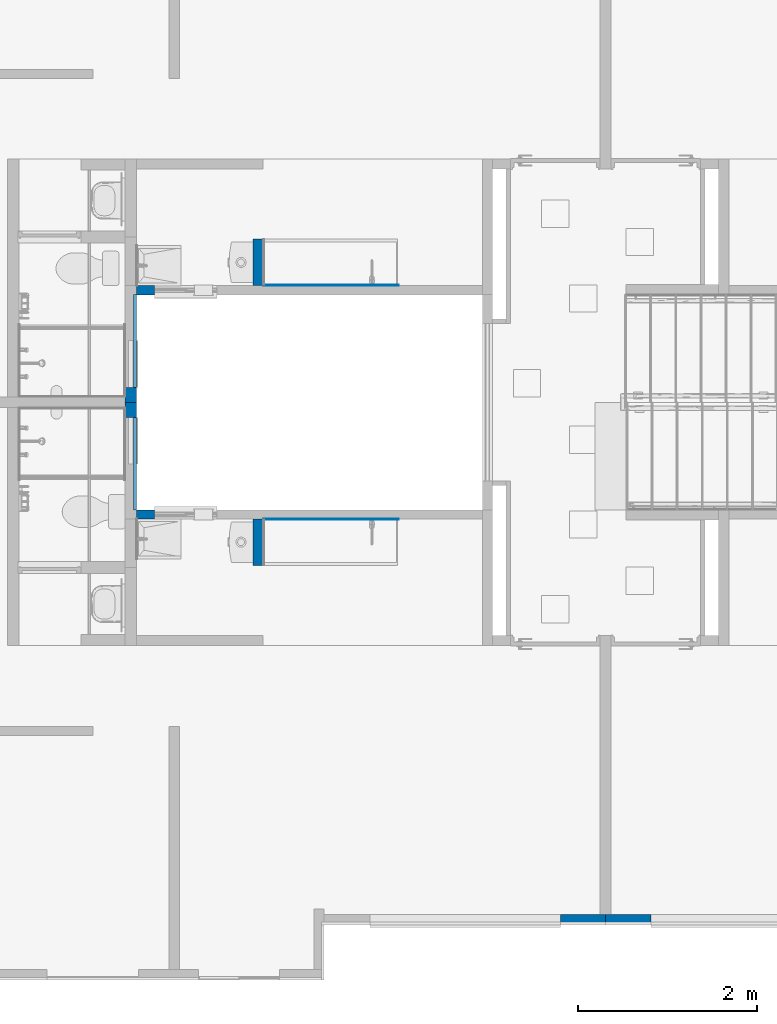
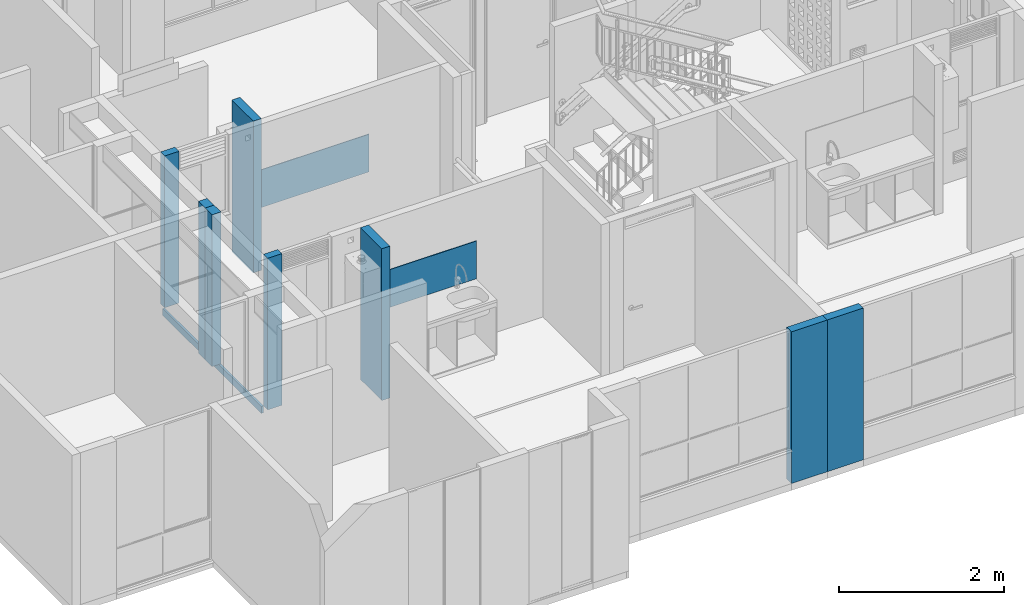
# One storey, part 8 of 48: 12 walls, 2 openings.
"""IFC4 building model written with IfcOpenShell, lengths in metres."""

from ifc_helpers import new_model, entity, si_unit, converted_unit, derived_unit, direction, frame, origin, place, context, subcontext, project, spatial, indexed_curve, outline, extrude, material, constituent, constituent_set, type_object, element, save


model = new_model("IFC4")

# Units and contexts
model_context = context("Model", 3, precision=1e-05, world=origin(), true_north=direction((6.123031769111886e-17, 1.0)))
body_context = subcontext(model_context, "Body", "Model", "MODEL_VIEW")
ifc_project = project(units=[si_unit("LENGTHUNIT", "METRE"), si_unit("AREAUNIT", "SQUARE_METRE"), si_unit("VOLUMEUNIT", "CUBIC_METRE"), converted_unit("PLANEANGLEUNIT", "DEGREE", entity("IfcRatioMeasure", 0.017453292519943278), si_unit("PLANEANGLEUNIT", "RADIAN"), dimensions=[0, 0, 0, 0, 0, 0, 0]), si_unit("MASSUNIT", "GRAM", prefix="KILO"), derived_unit("MASSDENSITYUNIT", [(si_unit("MASSUNIT", "GRAM", prefix="KILO"), 1), (si_unit("LENGTHUNIT", "METRE"), -3)]), derived_unit("IONCONCENTRATIONUNIT", [(si_unit("MASSUNIT", "GRAM", prefix="KILO"), 1), (si_unit("LENGTHUNIT", "METRE"), -3)]), derived_unit("MOMENTOFINERTIAUNIT", [(si_unit("LENGTHUNIT", "METRE"), 4)]), si_unit("TIMEUNIT", "SECOND"), si_unit("FREQUENCYUNIT", "HERTZ"), si_unit("THERMODYNAMICTEMPERATUREUNIT", "DEGREE_CELSIUS"), derived_unit("THERMALTRANSMITTANCEUNIT", [(si_unit("MASSUNIT", "GRAM", prefix="KILO"), 1), (si_unit("THERMODYNAMICTEMPERATUREUNIT", "KELVIN"), -1), (si_unit("TIMEUNIT", "SECOND"), -3)]), derived_unit("THERMALCONDUCTANCEUNIT", [(si_unit("MASSUNIT", "GRAM", prefix="KILO"), 1), (si_unit("THERMODYNAMICTEMPERATUREUNIT", "KELVIN"), -1), (si_unit("TIMEUNIT", "SECOND"), -3), (si_unit("LENGTHUNIT", "METRE"), 1)]), derived_unit("VOLUMETRICFLOWRATEUNIT", [(si_unit("LENGTHUNIT", "METRE"), 3), (si_unit("TIMEUNIT", "SECOND"), -1)]), derived_unit("MASSFLOWRATEUNIT", [(si_unit("MASSUNIT", "GRAM", prefix="KILO"), 1), (si_unit("TIMEUNIT", "SECOND"), -1)]), derived_unit("ROTATIONALFREQUENCYUNIT", [(si_unit("TIMEUNIT", "SECOND"), -1)]), si_unit("ELECTRICCURRENTUNIT", "AMPERE"), si_unit("ELECTRICVOLTAGEUNIT", "VOLT"), si_unit("POWERUNIT", "WATT"), si_unit("FORCEUNIT", "NEWTON", prefix="KILO"), si_unit("ILLUMINANCEUNIT", "LUX"), si_unit("LUMINOUSFLUXUNIT", "LUMEN"), si_unit("LUMINOUSINTENSITYUNIT", "CANDELA"), derived_unit("USERDEFINED", [(si_unit("MASSUNIT", "GRAM", prefix="KILO"), -1), (si_unit("LENGTHUNIT", "METRE"), -2), (si_unit("TIMEUNIT", "SECOND"), 3), (si_unit("LUMINOUSFLUXUNIT", "LUMEN"), 1)]), derived_unit("USERDEFINED", [(si_unit("MASSUNIT", "GRAM", prefix="KILO"), 1), (si_unit("TIMEUNIT", "SECOND"), -3), (si_unit("LENGTHUNIT", "METRE"), 3), (si_unit("ELECTRICCURRENTUNIT", "AMPERE"), -2)]), derived_unit("SOUNDPOWERUNIT", [(si_unit("MASSUNIT", "GRAM", prefix="KILO"), 1), (si_unit("TIMEUNIT", "SECOND"), -3), (si_unit("LENGTHUNIT", "METRE"), 2)]), derived_unit("SOUNDPRESSUREUNIT", [(si_unit("MASSUNIT", "GRAM", prefix="KILO"), 1), (si_unit("LENGTHUNIT", "METRE"), -1), (si_unit("TIMEUNIT", "SECOND"), -2)]), derived_unit("LINEARVELOCITYUNIT", [(si_unit("LENGTHUNIT", "METRE"), 1), (si_unit("TIMEUNIT", "SECOND"), -1)]), si_unit("PRESSUREUNIT", "PASCAL"), derived_unit("USERDEFINED", [(si_unit("MASSUNIT", "GRAM", prefix="KILO"), 1), (si_unit("LENGTHUNIT", "METRE"), -2), (si_unit("TIMEUNIT", "SECOND"), -2)]), derived_unit("LINEARFORCEUNIT", [(si_unit("MASSUNIT", "GRAM", prefix="KILO"), 1), (si_unit("TIMEUNIT", "SECOND"), -2)]), derived_unit("PLANARFORCEUNIT", [(si_unit("MASSUNIT", "GRAM", prefix="KILO"), 1), (si_unit("LENGTHUNIT", "METRE"), -1), (si_unit("TIMEUNIT", "SECOND"), -2)]), derived_unit("SPECIFICHEATCAPACITYUNIT", [(si_unit("THERMODYNAMICTEMPERATUREUNIT", "KELVIN"), -1), (si_unit("LENGTHUNIT", "METRE"), 2), (si_unit("TIMEUNIT", "SECOND"), -2)]), derived_unit("HEATINGVALUEUNIT", [(si_unit("LENGTHUNIT", "METRE"), 2), (si_unit("TIMEUNIT", "SECOND"), -2)]), derived_unit("VAPORPERMEABILITYUNIT", [(si_unit("LENGTHUNIT", "METRE"), -1), (si_unit("TIMEUNIT", "SECOND"), 1)]), derived_unit("DYNAMICVISCOSITYUNIT", [(si_unit("MASSUNIT", "GRAM", prefix="KILO"), 1), (si_unit("TIMEUNIT", "SECOND"), -1), (si_unit("LENGTHUNIT", "METRE"), -1)]), derived_unit("THERMALEXPANSIONCOEFFICIENTUNIT", [(si_unit("THERMODYNAMICTEMPERATUREUNIT", "KELVIN"), -1)]), derived_unit("MODULUSOFELASTICITYUNIT", [(si_unit("MASSUNIT", "GRAM", prefix="KILO"), 1), (si_unit("LENGTHUNIT", "METRE"), -1), (si_unit("TIMEUNIT", "SECOND"), -2)]), derived_unit("ISOTHERMALMOISTURECAPACITYUNIT", [(si_unit("LENGTHUNIT", "METRE"), 3), (si_unit("MASSUNIT", "GRAM", prefix="KILO"), -1)]), derived_unit("MOISTUREDIFFUSIVITYUNIT", [(si_unit("TIMEUNIT", "SECOND"), -1), (si_unit("LENGTHUNIT", "METRE"), 2)])], contexts=[model_context])

# Site, building, storey
site_placement = place(None, origin())
site = spatial("IfcSite", under=ifc_project, at=site_placement, Name="Default", CompositionType="ELEMENT")
building_placement = place(site_placement, origin())
building = spatial("IfcBuilding", under=site, at=building_placement, CompositionType="ELEMENT")
storey_placement = place(building_placement, frame((0.0, 0.0, 4.700000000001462)))
storey = spatial("IfcBuildingStorey", under=building, at=storey_placement, Name="Nivel 3", CompositionType="ELEMENT", Elevation=4.700000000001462)

# Walls
ifc_material_1 = material(Name="LADRILLO CLARO", Category="Materials")
wall_type_1 = type_object("IfcWallType", Name="Basic Wall:B2010 - 0.115m - ME mampostería no estructural - Ladrillo", PredefinedType="STANDARD")
wall_1_placement = place(storey_placement, frame((8.817499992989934, -12.197500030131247, 0.0)))
element("IfcWall", 1, at=wall_1_placement, inside=storey, type_object=wall_type_1, material=ifc_material_1, Name="Basic Wall:B2010 - 0.115m - ME mampostería no estructural - Ladrillo", ObjectType="Basic Wall:B2010 - 0.115m - ME mampostería no estructural - Ladrillo", PredefinedType="NOTDEFINED", context=body_context, shape_type="SweptSolid", body=[
    extrude(outline(indexed_curve([(0.5050000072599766, 0.05749999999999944), (1.5136500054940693e-16, 0.057499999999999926), (-1.5136500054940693e-16, -0.057499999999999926), (0.5050000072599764, -0.057500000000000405), (0.5050000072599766, 0.05749999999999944)], self_intersect=False)), origin(), (0.0, 0.0, 1.0), 2.2500000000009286),
])
wall_2_placement = place(storey_placement, frame((9.82750000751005, -12.197500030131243, 0.0), z_axis=(0.0, 0.0, 1.0), x_axis=(-1.0, 0.0, 0.0)))
element("IfcWall", 2, at=wall_2_placement, inside=storey, type_object=wall_type_1, material=ifc_material_1, Name="Basic Wall:B2010 - 0.115m - ME mampostería no estructural - Ladrillo", ObjectType="Basic Wall:B2010 - 0.115m - ME mampostería no estructural - Ladrillo", PredefinedType="NOTDEFINED", context=body_context, shape_type="SweptSolid", body=[
    extrude(outline(indexed_curve([(0.5050000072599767, 0.05750000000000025), (2.0895521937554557e-16, 0.057499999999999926), (-2.0895521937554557e-16, -0.057499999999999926), (0.5050000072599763, -0.05749999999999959), (0.5050000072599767, 0.05750000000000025)], self_intersect=False)), origin(), (0.0, 0.0, 1.0), 2.2500000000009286),
])

# Wall, opening
ifc_material_2 = material(Name="PINTURA BLANCA PARA EXTERIORES", Category="Materials")
ifc_constituent_1 = constituent(ifc_material_2, Name="PINTURA BLANCA PARA EXTERIORES", Category="Materials")
ifc_material_3 = material(Name="Concreto - Fundido in situ", Category="Materials")
ifc_constituent_2 = constituent(ifc_material_3, Name="Concreto - Fundido in situ", Category="Materials")
ifc_constituent_set_1 = constituent_set(constituents=[ifc_constituent_1, ifc_constituent_2], Name="Basic Wall:B2010 - 0.10m - MI no estructural- Concreto + repello+ pintura blanca")
wall_type_2 = type_object("IfcWallType", Name="Basic Wall:B2010 - 0.10m - MI no estructural- Concreto + repello+ pintura blanca", PredefinedType="STANDARD", material=ifc_constituent_set_1)
wall_3_placement = place(storey_placement, frame((4.087499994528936, -5.175000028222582, 0.0)))
wall_3 = element("IfcWall", 3, at=wall_3_placement, inside=storey, type_object=wall_type_2, material=ifc_constituent_set_1, Name="Basic Wall:B2010 - 0.10m - MI no estructural- Concreto + repello+ pintura blanca", ObjectType="Basic Wall:B2010 - 0.10m - MI no estructural- Concreto + repello+ pintura blanca", PredefinedType="NOTDEFINED", context=body_context, shape_type="SweptSolid", body=[
    extrude(outline(indexed_curve([(-0.0004999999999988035, -0.10000000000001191), (0.0005000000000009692, -0.10000000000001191), (0.0004999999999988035, 0.10000000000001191), (-0.0005000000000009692, 0.10000000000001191), (-0.0004999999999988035, -0.10000000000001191)], self_intersect=False)), frame((0.10000000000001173, -0.04999999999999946, 0.0), z_axis=(0.0, 0.0, 1.0), x_axis=(0.0, 1.0, 0.0)), (0.0, 0.0, 1.0), 2.2499999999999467),
    extrude(outline(indexed_curve([(-0.04999999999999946, -0.10000000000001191), (0.050000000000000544, -0.10000000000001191), (0.050000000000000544, 0.10000000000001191), (-0.04999999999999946, 0.10000000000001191), (-0.04999999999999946, -0.10000000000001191)], self_intersect=False)), frame((0.10000000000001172, 0.0005000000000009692, 0.0), z_axis=(0.0, 0.0, 1.0), x_axis=(0.0, -1.0, 0.0)), (0.0, 0.0, 1.0), 2.2499999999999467),
])
opening_1_placement = place(wall_3_placement, origin())
element("IfcOpeningElement", 4, at=opening_1_placement, cuts=wall_3, Name="Basic Wall:B2010 - 0.10m - MI no estructural- Concreto + repello+ pintura blanca", PredefinedType="OPENING", context=body_context, shape_type="SweptSolid", body=[
    extrude(outline(indexed_curve([(-0.5749999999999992, -0.35000000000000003), (0.5749999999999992, -0.35000000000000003), (0.5749999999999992, 0.3499999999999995), (-0.5749999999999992, 0.3499999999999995), (-0.5749999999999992, -0.35000000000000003)], self_intersect=False)), frame((0.5500000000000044, -1.4734999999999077, 1.6749999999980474), z_axis=(0.0, 1.0, 0.0), x_axis=(0.0, 0.0, 1.0)), (0.0, 0.0, 1.0), 3.048),
])

wall_4_placement = place(storey_placement, frame((4.087499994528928, -7.6750000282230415, 0.0)))
wall_4 = element("IfcWall", 5, at=wall_4_placement, inside=storey, type_object=wall_type_2, material=ifc_constituent_set_1, Name="Basic Wall:B2010 - 0.10m - MI no estructural- Concreto + repello+ pintura blanca", ObjectType="Basic Wall:B2010 - 0.10m - MI no estructural- Concreto + repello+ pintura blanca", PredefinedType="NOTDEFINED", context=body_context, shape_type="SweptSolid", body=[
    extrude(outline(indexed_curve([(-0.000500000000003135, -0.10000000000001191), (0.0004999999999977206, -0.10000000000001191), (0.0005000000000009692, 0.10000000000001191), (-0.0004999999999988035, 0.10000000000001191), (-0.000500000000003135, -0.10000000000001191)], self_intersect=False)), frame((0.10000000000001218, 0.04999999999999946, 0.0), z_axis=(0.0, 0.0, 1.0), x_axis=(0.0, -1.0, 0.0)), (0.0, 0.0, 1.0), 2.2499999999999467),
    extrude(outline(indexed_curve([(-0.05, -0.10000000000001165), (0.05, -0.10000000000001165), (0.05, 0.10000000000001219), (-0.04999999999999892, 0.10000000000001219), (-0.05, -0.10000000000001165)], self_intersect=False)), frame((0.1000000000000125, -0.0004999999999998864, 0.0), z_axis=(0.0, 0.0, 1.0), x_axis=(0.0, 1.0, 0.0)), (0.0, 0.0, 1.0), 2.2499999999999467),
])
opening_2_placement = place(wall_4_placement, origin())
element("IfcOpeningElement", 6, at=opening_2_placement, cuts=wall_4, Name="Basic Wall:B2010 - 0.10m - MI no estructural- Concreto + repello+ pintura blanca", PredefinedType="OPENING", context=body_context, shape_type="SweptSolid", body=[
    extrude(outline(indexed_curve([(-0.5749999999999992, -0.35000000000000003), (0.5749999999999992, -0.35000000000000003), (0.5749999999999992, 0.3499999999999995), (-0.5749999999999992, 0.3499999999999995), (-0.5749999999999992, -0.35000000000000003)], self_intersect=False)), frame((0.5500000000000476, -1.5745000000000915, 1.6749999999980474), z_axis=(0.0, 1.0, 0.0), x_axis=(0.0, 0.0, 1.0)), (0.0, 0.0, 1.0), 3.048),
])

# Walls
wall_type_3 = type_object("IfcWallType", Name="Basic Wall:B2010 - 0.115m - MI mampostería no estructural - Ladrillo", PredefinedType="STANDARD")
wall_5_placement = place(storey_placement, frame((5.44499999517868, -4.605000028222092, 0.0), z_axis=(0.0, 0.0, 1.0), x_axis=(0.0, -1.0, 0.0)))
element("IfcWall", 7, at=wall_5_placement, inside=storey, type_object=wall_type_3, material=ifc_material_1, Name="Basic Wall:B2010 - 0.115m - MI mampostería no estructural - Ladrillo", ObjectType="Basic Wall:B2010 - 0.115m - MI mampostería no estructural - Ladrillo", PredefinedType="NOTDEFINED", context=body_context, shape_type="SweptSolid", body=[
    extrude(outline(indexed_curve([(0.5195000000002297, 0.057500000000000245), (2.0425946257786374e-16, 0.057499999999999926), (-2.0425946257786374e-16, -0.057499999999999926), (0.5195000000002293, -0.0574999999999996), (0.5195000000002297, 0.057500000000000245)], self_intersect=False)), origin(), (0.0, 0.0, 1.0), 2.2500000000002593),
])
wall_6_placement = place(storey_placement, frame((5.4449999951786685, -8.245000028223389, 0.0), z_axis=(0.0, 0.0, 1.0), x_axis=(0.0, 1.0, 0.0)))
element("IfcWall", 8, at=wall_6_placement, inside=storey, type_object=wall_type_3, material=ifc_material_1, Name="Basic Wall:B2010 - 0.115m - MI mampostería no estructural - Ladrillo", ObjectType="Basic Wall:B2010 - 0.115m - MI mampostería no estructural - Ladrillo", PredefinedType="NOTDEFINED", context=body_context, shape_type="SweptSolid", body=[
    extrude(outline(indexed_curve([(0.51950000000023, 0.05749999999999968), (5.098138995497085e-16, 0.057499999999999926), (-5.098138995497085e-16, -0.057499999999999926), (0.519500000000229, -0.05750000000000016), (0.51950000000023, 0.05749999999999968)], self_intersect=False)), origin(), (0.0, 0.0, 1.0), 2.2500000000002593),
])
ifc_material_4 = material(Name="Ceramica Salpicadero 0.28m x 0.45m", Category="Materials")
wall_type_4 = type_object("IfcWallType", Name="Basic Wall:C2010 - 0.28 x 0.45 - Salpicadero - Cerámica", PredefinedType="STANDARD")
wall_7_placement = place(storey_placement, frame((5.502499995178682, -5.120000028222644, 0.9299999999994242)))
element("IfcWall", 9, at=wall_7_placement, inside=storey, type_object=wall_type_4, material=ifc_material_4, Name="Basic Wall:C2010 - 0.28 x 0.45 - Salpicadero - Cerámica", ObjectType="Basic Wall:C2010 - 0.28 x 0.45 - Salpicadero - Cerámica", PredefinedType="NOTDEFINED", context=body_context, shape_type="SweptSolid", body=[
    extrude(outline(indexed_curve([(1.5100000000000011, 0.005000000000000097), (-1.8429308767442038e-17, 0.004999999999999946), (1.8429308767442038e-17, -0.004999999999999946), (1.5100000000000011, -0.004999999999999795), (1.5100000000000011, 0.005000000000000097)], self_intersect=False)), origin(), (0.0, 0.0, 1.0), 0.5599999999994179),
])
wall_8_placement = place(storey_placement, frame((5.502499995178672, -7.730000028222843, 0.9299999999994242)))
element("IfcWall", 10, at=wall_8_placement, inside=storey, type_object=wall_type_4, material=ifc_material_4, Name="Basic Wall:C2010 - 0.28 x 0.45 - Salpicadero - Cerámica", ObjectType="Basic Wall:C2010 - 0.28 x 0.45 - Salpicadero - Cerámica", PredefinedType="NOTDEFINED", context=body_context, shape_type="SweptSolid", body=[
    extrude(outline(indexed_curve([(1.5100000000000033, 0.004999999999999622), (-1.326925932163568e-17, 0.004999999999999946), (1.326925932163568e-17, -0.004999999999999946), (1.5100000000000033, -0.005000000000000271), (1.5100000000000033, 0.004999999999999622)], self_intersect=False)), origin(), (0.0, 0.0, 1.0), 0.5599999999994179),
])
ifc_material_5 = material(Name="Pañete", Category="Materials")
ifc_constituent_3 = constituent(ifc_material_5, Name="Pañete", Category="Materials")
ifc_constituent_4 = constituent(ifc_material_1, Name="LADRILLO CLARO", Category="Materials")
ifc_constituent_set_2 = constituent_set(constituents=[ifc_constituent_3, ifc_constituent_4], Name="Basic Wall:B2010 - 0.115m - MI  mampostería no estructural - Ladrillo + Pañete")
wall_type_5 = type_object("IfcWallType", Name="Basic Wall:B2010 - 0.115m - MI  mampostería no estructural - Ladrillo + Pañete", PredefinedType="STANDARD", material=ifc_constituent_set_2)
wall_9_placement = place(storey_placement, frame((4.0249999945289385, -6.257812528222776, 0.0), z_axis=(0.0, 0.0, 1.0), x_axis=(0.0, -1.0, 0.0)))
element("IfcWall", 11, at=wall_9_placement, inside=storey, type_object=wall_type_5, material=ifc_constituent_set_2, Name="Basic Wall:B2010 - 0.115m - MI  mampostería no estructural - Ladrillo + Pañete", ObjectType="Basic Wall:B2010 - 0.115m - MI  mampostería no estructural - Ladrillo + Pañete", PredefinedType="NOTDEFINED", context=body_context, shape_type="SweptSolid", body=[
    extrude(outline(indexed_curve([(-0.004999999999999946, -0.08359375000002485), (0.004999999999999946, -0.08359375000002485), (0.004999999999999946, 0.08359375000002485), (-0.004999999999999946, 0.08359375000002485), (-0.004999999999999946, -0.08359375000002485)], self_intersect=False)), frame((0.08359375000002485, -0.05750000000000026, 0.0), z_axis=(0.0, 0.0, 1.0), x_axis=(0.0, 1.0, 0.0)), (0.0, 0.0, 1.0), 2.2500000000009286),
    extrude(outline(indexed_curve([(-0.057499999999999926, -0.08359375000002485), (0.057499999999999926, -0.08359375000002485), (0.057499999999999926, 0.08359375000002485), (-0.057499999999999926, 0.08359375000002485), (-0.057499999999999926, -0.08359375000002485)], self_intersect=False)), frame((0.08359375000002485, 0.00499999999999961, 0.0), z_axis=(0.0, 0.0, 1.0), x_axis=(0.0, -1.0, 0.0)), (0.0, 0.0, 1.0), 2.2500000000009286),
])
wall_10_placement = place(storey_placement, frame((4.024999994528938, -6.592187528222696, 0.0), z_axis=(0.0, 0.0, 1.0), x_axis=(0.0, 1.0, 0.0)))
element("IfcWall", 12, at=wall_10_placement, inside=storey, type_object=wall_type_5, material=ifc_constituent_set_2, Name="Basic Wall:B2010 - 0.115m - MI  mampostería no estructural - Ladrillo + Pañete", ObjectType="Basic Wall:B2010 - 0.115m - MI  mampostería no estructural - Ladrillo + Pañete", PredefinedType="NOTDEFINED", context=body_context, shape_type="SweptSolid", body=[
    extrude(outline(indexed_curve([(-0.0050000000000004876, -0.08359375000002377), (0.004999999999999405, -0.08359375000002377), (0.005000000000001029, 0.08359375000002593), (-0.004999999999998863, 0.08359375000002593), (-0.0050000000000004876, -0.08359375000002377)], self_intersect=False)), frame((0.08359375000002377, 0.057500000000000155, 0.0), z_axis=(0.0, 0.0, 1.0), x_axis=(0.0, -1.0, 0.0)), (0.0, 0.0, 1.0), 2.2500000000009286),
    extrude(outline(indexed_curve([(-0.05750000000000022, -0.08359375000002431), (0.05749999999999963, -0.08359375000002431), (0.057499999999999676, 0.08359375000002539), (-0.05750000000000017, 0.08359375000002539), (-0.05750000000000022, -0.08359375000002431)], self_intersect=False)), frame((0.08359375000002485, -0.004999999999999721, 0.0), z_axis=(0.0, 0.0, 1.0), x_axis=(0.0, 1.0, 0.0)), (0.0, 0.0, 1.0), 2.2500000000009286),
])
wall_type_6 = type_object("IfcWallType", Name="Basic Wall:B2010 - 0.03m - ME enchape  no estructural - Ladrillo", PredefinedType="STANDARD")
wall_11_placement = place(storey_placement, frame((4.072499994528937, -5.225000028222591, -0.10000000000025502), z_axis=(0.0, 0.0, 1.0), x_axis=(0.0, -1.0, 0.0)))
element("IfcWall", 13, at=wall_11_placement, inside=storey, type_object=wall_type_6, material=ifc_material_1, Name="Basic Wall:B2010 - 0.03m - ME enchape  no estructural - Ladrillo", ObjectType="Basic Wall:B2010 - 0.03m - ME enchape  no estructural - Ladrillo", PredefinedType="NOTDEFINED", context=body_context, shape_type="SweptSolid", body=[
    extrude(outline(indexed_curve([(1.2000000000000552, 0.014999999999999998), (-6.966570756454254e-17, 0.014999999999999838), (6.966570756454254e-17, -0.014999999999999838), (1.2000000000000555, -0.01499999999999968), (1.2000000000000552, 0.014999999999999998)], self_intersect=False)), origin(), (0.0, 0.0, 1.0), 0.1),
])
wall_12_placement = place(storey_placement, frame((4.072499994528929, -7.625000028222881, -0.10000000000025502), z_axis=(0.0, 0.0, 1.0), x_axis=(0.0, 1.0, 0.0)))
element("IfcWall", 14, at=wall_12_placement, inside=storey, type_object=wall_type_6, material=ifc_material_1, Name="Basic Wall:B2010 - 0.03m - ME enchape  no estructural - Ladrillo", ObjectType="Basic Wall:B2010 - 0.03m - ME enchape  no estructural - Ladrillo", PredefinedType="NOTDEFINED", context=body_context, shape_type="SweptSolid", body=[
    extrude(outline(indexed_curve([(1.2000000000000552, 0.014999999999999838), (-2.707167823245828e-17, 0.014999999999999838), (2.707167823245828e-17, -0.014999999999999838), (1.2000000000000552, -0.014999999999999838), (1.2000000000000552, 0.014999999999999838)], self_intersect=False)), origin(), (0.0, 0.0, 1.0), 0.1),
])

save(model, "model.ifc")
